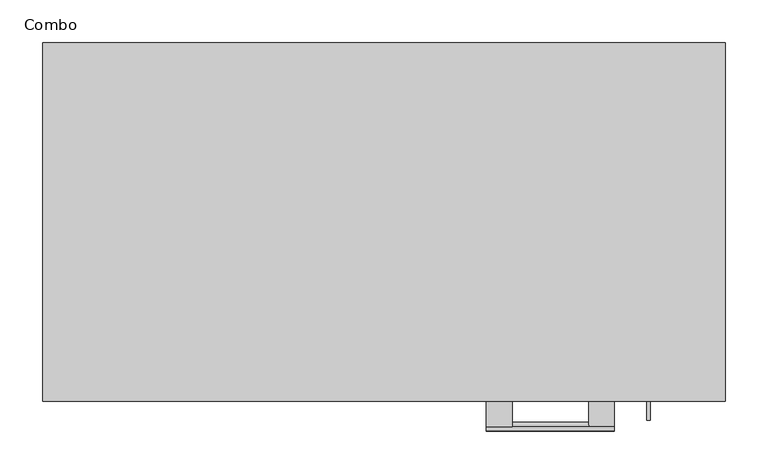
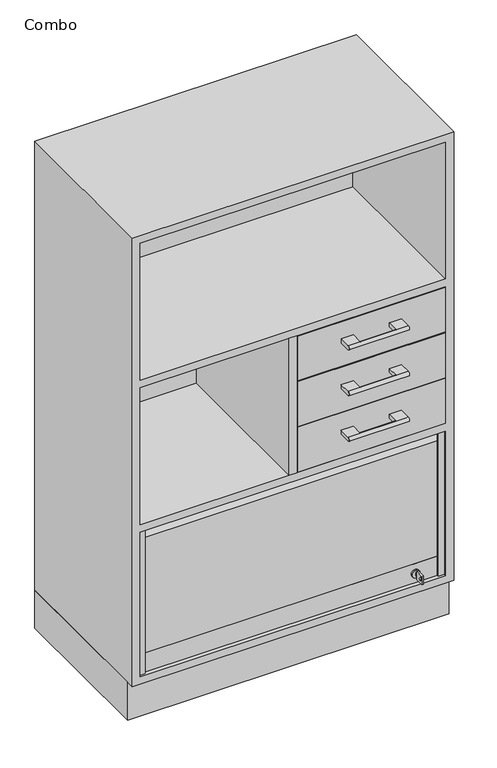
"""IFC4 building model written with IfcOpenShell, lengths in millimetres: furniture geometry, Combo : 583RKDA."""

import ifcopenshell
import ifcopenshell.guid

model = None  # the IFC model being written
_history = None  # IfcOwnerHistory: only IFC2X3 demands one
_inside = {}  # id of a spatial element -> (the spatial element, [elements in it])
_under = {}  # id of a project, library or spatial element -> (it, [spatial elements below it])
_declared = {}  # id of a project -> (the project, [libraries it declares])
_typed = {}  # id of a type object -> (the type object, [elements of that type])
_made_of = {}  # id of a material, layer set ... -> (it, [elements and type objects made of it])


def new_model(schema):
    """Start an empty IFC model of exactly this schema.

    Asked for "IFC4X3", IfcOpenShell would pick the latest addendum, in which some entities
    have other attributes; the version numbers below select the first issue.
    IFC2X3 requires an IfcOwnerHistory on every rooted entity: one is made here for all.
    """
    global model, _history
    if schema == "IFC4X3":
        model = ifcopenshell.file(schema_version=(4, 3, 0, 0))
    else:
        model = ifcopenshell.file(schema=schema)
    _inside.clear()
    _under.clear()
    _declared.clear()
    _typed.clear()
    _made_of.clear()
    _history = None
    if model.schema == "IFC2X3":
        org = make("IfcOrganization", Name="unknown")
        user = make(
            "IfcPersonAndOrganization",
            ThePerson=make("IfcPerson", FamilyName="unknown"),
            TheOrganization=org,
        )
        app = make(
            "IfcApplication",
            ApplicationDeveloper=org,
            Version="unknown",
            ApplicationFullName="unknown",
            ApplicationIdentifier="unknown",
        )
        _history = make(
            "IfcOwnerHistory",
            OwningUser=user,
            OwningApplication=app,
            ChangeAction="ADDED",
            CreationDate=0,
        )
    return model


def make(cls, **values):
    """One entity of the class cls with the attributes given. An attribute that is None is left unset."""
    return model.create_entity(
        cls, **{name: value for name, value in values.items() if value is not None}
    )


def rooted(cls, **values):
    """An entity with a GlobalId (a new one), such as an element, a storey or a relation."""
    return make(cls, GlobalId=ifcopenshell.guid.new(), OwnerHistory=_history, **values)


def si_unit(unit_type, name, prefix=None):
    """IfcSIUnit, for example si_unit("LENGTHUNIT", "METRE", prefix="MILLI")."""
    return make("IfcSIUnit", UnitType=unit_type, Prefix=prefix, Name=name)


def assignment(units):
    """IfcUnitAssignment: the units of a project."""
    return None if units is None else make("IfcUnitAssignment", Units=units)


def point(xyz):
    """IfcCartesianPoint."""
    return None if xyz is None else make("IfcCartesianPoint", Coordinates=xyz)


def direction(xyz):
    """IfcDirection."""
    return None if xyz is None else make("IfcDirection", DirectionRatios=xyz)


def frame(location, z_axis=None, x_axis=None):
    """IfcAxis2Placement3D, a coordinate frame: its origin and axes. An axis left out is left unset."""
    return make(
        "IfcAxis2Placement3D",
        Location=point(location),
        Axis=direction(z_axis),
        RefDirection=direction(x_axis),
    )


def frame_2d(location, x_axis=None):
    """IfcAxis2Placement2D, a coordinate frame in the plane: its origin and x axis."""
    return make(
        "IfcAxis2Placement2D", Location=point(location), RefDirection=direction(x_axis)
    )


def origin():
    """The frame at (0, 0, 0) with its axes left unset."""
    return frame((0.0, 0.0, 0.0))


def origin_with_axes():
    """The frame at (0, 0, 0) with the z axis (0, 0, 1) and the x axis (1, 0, 0) written out."""
    return frame((0.0, 0.0, 0.0), z_axis=(0.0, 0.0, 1.0), x_axis=(1.0, 0.0, 0.0))


def place(relative_to, where):
    """IfcLocalPlacement: puts the frame where relative to a parent placement (None: the world)."""
    return make(
        "IfcLocalPlacement", PlacementRelTo=relative_to, RelativePlacement=where
    )


def context(
    kind, dimensions, precision=None, world=None, true_north=None, identifier=None
):
    """IfcGeometricRepresentationContext, for example the 3D "Model" context."""
    return make(
        "IfcGeometricRepresentationContext",
        ContextIdentifier=identifier,
        ContextType=kind,
        CoordinateSpaceDimension=dimensions,
        Precision=precision,
        WorldCoordinateSystem=world,
        TrueNorth=true_north,
    )


def project(units=None, contexts=None):
    """IfcProject with its units and contexts."""
    return rooted(
        "IfcProject",
        Name="project",
        RepresentationContexts=contexts,
        UnitsInContext=assignment(units),
    )


def spatial(cls, under=None, at=None, **own):
    """A site, building, storey or space (cls), placed at a placement, below another one or the project."""
    s = rooted(cls, ObjectPlacement=at, **own)
    if under is not None:
        _under.setdefault(under.id(), (under, []))[1].append(s)
    return s


def polyline(points):
    """IfcPolyline through the points."""
    return make("IfcPolyline", Points=[point(p) for p in points])


def circle_curve(where, radius):
    """IfcCircle in the frame where."""
    return make("IfcCircle", Position=where, Radius=radius)


def trimmed(basis, trim1, trim2, sense, master):
    """IfcTrimmedCurve: the piece of a basis curve between two trims."""
    return make(
        "IfcTrimmedCurve",
        BasisCurve=basis,
        Trim1=trim1,
        Trim2=trim2,
        SenseAgreement=sense,
        MasterRepresentation=master,
    )


def segment(curve, same_sense, transition):
    """IfcCompositeCurveSegment."""
    return make(
        "IfcCompositeCurveSegment",
        Transition=transition,
        SameSense=same_sense,
        ParentCurve=curve,
    )


def composite_curve(segments, self_intersect=None):
    """IfcCompositeCurve: segments joined end to end."""
    return make("IfcCompositeCurve", Segments=segments, SelfIntersect=self_intersect)


def outline(outer, holes=None, kind="AREA"):
    """IfcArbitraryClosedProfileDef: a profile drawn as a closed curve; with holes, ...WithVoids."""
    if holes is None:
        return make("IfcArbitraryClosedProfileDef", ProfileType=kind, OuterCurve=outer)
    return make(
        "IfcArbitraryProfileDefWithVoids",
        ProfileType=kind,
        OuterCurve=outer,
        InnerCurves=holes,
    )


def extrude(swept, where, along, depth):
    """IfcExtrudedAreaSolid: the profile swept, set in the frame where, extruded along a direction by depth."""
    return make(
        "IfcExtrudedAreaSolid",
        SweptArea=swept,
        Position=where,
        ExtrudedDirection=direction(along),
        Depth=depth,
    )


def faces_of(points, faces, orient=None, outer=None):
    """IfcFace entities. A face is a list of loops; a loop is a list of indices into points, from 0.

    orient and outer hold one flag for each loop. By default every Orientation is true, the
    first loop of a face is its IfcFaceOuterBound and the others are IfcFaceBound.
    """
    made = []
    for i, loops in enumerate(faces):
        bounds = []
        for j, loop in enumerate(loops):
            is_outer = j == 0 if outer is None else outer[i][j]
            bounds.append(
                make(
                    "IfcFaceOuterBound" if is_outer else "IfcFaceBound",
                    Bound=make("IfcPolyLoop", Polygon=[points[k] for k in loop]),
                    Orientation=True if orient is None else orient[i][j],
                )
            )
        made.append(make("IfcFace", Bounds=bounds))
    return made


def faceted_brep(points, faces, orient=None, outer=None, voids=None):
    """IfcFacetedBrep: a solid bounded by flat faces; with voids (closed shells), ...WithVoids."""
    shared = [point(p) for p in points]
    hull = make("IfcClosedShell", CfsFaces=faces_of(shared, faces, orient, outer))
    if voids is None:
        return make("IfcFacetedBrep", Outer=hull)
    return make(
        "IfcFacetedBrepWithVoids",
        Outer=hull,
        Voids=[
            make(cls, CfsFaces=faces_of(shared, fs, o, b)) for cls, fs, o, b in voids
        ],
    )


def shape(context_of_items, identifier, shape_type, items):
    """IfcShapeRepresentation: the items that make up one representation, for example the "Body"."""
    return make(
        "IfcShapeRepresentation",
        ContextOfItems=context_of_items,
        RepresentationIdentifier=identifier,
        RepresentationType=shape_type,
        Items=items,
    )


def source(mapping_origin, context_of_items, identifier, shape_type, items):
    """IfcRepresentationMap: a shape defined once, which mapped items show again and again."""
    return make(
        "IfcRepresentationMap",
        MappingOrigin=mapping_origin,
        MappedRepresentation=shape(context_of_items, identifier, shape_type, items),
    )


def transform(
    local_origin,
    x_axis=None,
    y_axis=None,
    z_axis=None,
    scale=None,
    scale2=None,
    scale3=None,
    uniform=True,
):
    """IfcCartesianTransformationOperator3D, or its non-uniform kind. x_axis, y_axis, z_axis: its Axis1, 2, 3."""
    if uniform:
        return make(
            "IfcCartesianTransformationOperator3D",
            Axis1=direction(x_axis),
            Axis2=direction(y_axis),
            LocalOrigin=point(local_origin),
            Scale=scale,
            Axis3=direction(z_axis),
        )
    return make(
        "IfcCartesianTransformationOperator3DnonUniform",
        Axis1=direction(x_axis),
        Axis2=direction(y_axis),
        LocalOrigin=point(local_origin),
        Scale=scale,
        Axis3=direction(z_axis),
        Scale2=scale2,
        Scale3=scale3,
    )


def mapped(mapping_source, mapping_target):
    """IfcMappedItem: shows the shape of a source again, moved by a transform."""
    return make(
        "IfcMappedItem", MappingSource=mapping_source, MappingTarget=mapping_target
    )


def made_of(thing, what):
    """Note that an element or type object is made of a material, layer set ...; save() writes the relation."""
    if what is not None:
        _made_of.setdefault(what.id(), (what, []))[1].append(thing)
    return thing


def element(
    cls,
    number,
    at=None,
    inside=None,
    cuts=None,
    type_object=None,
    material=None,
    context=None,
    identifier="Body",
    shape_type=None,
    held_by="IfcProductDefinitionShape",
    body=None,
    shapes=None,
    **own,
):
    """One element of the class cls, such as IfcWall. Its Tag is "e" and its number.

    at: its placement. inside: the storey or other place that contains it. cuts: it is an
    opening in that element (IfcRelVoidsElement). A single representation is given by context,
    identifier, shape_type and body (its items); several are given by shapes. held_by: the class
    of the entity that holds the representations. save() writes the other relations.
    """
    e = rooted(cls, Tag="e%d" % number, ObjectPlacement=at, **own)
    if body is not None:
        shapes = [shape(context, identifier, shape_type, body)]
    if shapes is not None:
        e.Representation = make(held_by, Representations=shapes)
    if inside is not None:
        _inside.setdefault(inside.id(), (inside, []))[1].append(e)
    if cuts is not None:
        rooted(
            "IfcRelVoidsElement", RelatingBuildingElement=cuts, RelatedOpeningElement=e
        )
    if type_object is not None:
        _typed.setdefault(type_object.id(), (type_object, []))[1].append(e)
    return made_of(e, material)


def aggregate(whole, parts):
    """IfcRelAggregates: a whole, such as a stair, and the parts it consists of."""
    return rooted("IfcRelAggregates", RelatingObject=whole, RelatedObjects=parts)


def save(model, path):
    """Write the relations noted so far, then the file.

    IfcRelAggregates (storeys below a building ...), IfcRelContainedInSpatialStructure (elements
    in a storey), IfcRelDefinesByType, IfcRelAssociatesMaterial and IfcRelDeclares: one each for
    every whole, place, type object, material and project.
    """
    for whole, parts in _under.values():
        aggregate(whole, parts)
    for where, things in _inside.values():
        rooted(
            "IfcRelContainedInSpatialStructure",
            RelatedElements=things,
            RelatingStructure=where,
        )
    for kind, things in _typed.values():
        rooted("IfcRelDefinesByType", RelatedObjects=things, RelatingType=kind)
    for what, things in _made_of.values():
        rooted("IfcRelAssociatesMaterial", RelatedObjects=things, RelatingMaterial=what)
    for by, libraries in _declared.values():
        rooted("IfcRelDeclares", RelatingContext=by, RelatedDefinitions=libraries)
    model.write(path)


def plane_surface(at):
    """IfcPlane: the flat surface through the origin of the frame at, square to its z axis."""
    return make("IfcPlane", Position=at)


def cylinder_surface(at, radius):
    """IfcCylindricalSurface: all points at the distance radius from the z axis of the frame at."""
    return make("IfcCylindricalSurface", Position=at, Radius=radius)


def advanced_brep(points, edges, surfaces, faces):
    """IfcAdvancedBrep: a solid bounded by faces that lie on surfaces and meet in shared edges.

    An edge is (start, end): straight between two places in points (the first is 0);
    or (start, end, curve); or (start, end, curve, False) where it runs against its curve.
    A face is (place in surfaces, loops), or (place, loops, False) where it looks against
    its surface's normal. A loop lists edges by number (the first is 1), with a minus sign
    where the edge is run from its end to its start. The first loop is the outer one.
    """
    corners = [point(p) for p in points]
    vertices = [make("IfcVertexPoint", VertexGeometry=c) for c in corners]
    made = []
    for start, end, *more in edges:
        made.append(
            make(
                "IfcEdgeCurve",
                EdgeStart=vertices[start],
                EdgeEnd=vertices[end],
                EdgeGeometry=more[0] if more else make("IfcPolyline", Points=[corners[start], corners[end]]),
                SameSense=more[1] if len(more) > 1 else True,
            )
        )
    hull = []
    for where, loops, *sense in faces:
        bounds = []
        for j, loop in enumerate(loops):
            ring = [make("IfcOrientedEdge", EdgeElement=made[abs(k) - 1], Orientation=k > 0) for k in loop]
            bounds.append(
                make(
                    "IfcFaceOuterBound" if j == 0 else "IfcFaceBound",
                    Bound=make("IfcEdgeLoop", EdgeList=ring),
                    Orientation=True,
                )
            )
        hull.append(make("IfcAdvancedFace", Bounds=bounds, FaceSurface=surfaces[where], SameSense=sense[0] if sense else True))
    return make("IfcAdvancedBrep", Outer=make("IfcClosedShell", CfsFaces=hull))


def combo_d0bdfe3d(model_context):
    return source(origin(), model_context, "Body", "SolidModel", [
        extrude(outline(polyline([(-400.0, -400.0), (-400.0, 0.0), (400.0, 0.0), (400.0, -400.0), (-400.0, -400.0)])), origin_with_axes(), (0.0, 0.0, 1.0), 100.0),
        advanced_brep(
        [(120.0, -450.0, 593.3054041), (120.0, -420.0, 593.3054041), (120.0, -420.0, 583.3054041), (120.0, -450.0, 583.3054041), (150.0, -450.0, 583.3054041), (150.0, -420.0, 583.3054041), (150.0, -420.0, 593.3054041), (150.0, -450.0, 593.3054041), (270.0, -450.0, 593.3054041), (270.0, -450.0, 583.3054041), (270.0, -420.0, 583.3054041), (270.0, -420.0, 593.3054041), (240.0, -450.0, 593.3054041), (240.0, -450.0, 583.3054041), (240.0, -420.0, 593.3054041), (240.0, -420.0, 583.3054041)],
        [
            (0, 1),
            (1, 2),
            (2, 3),
            (3, 0, circle_curve(frame((120.0, -450.0, 588.3054041), z_axis=(-1.0, 0.0, 0.0), x_axis=(0.0, 0.0, -1.0)), 5.0)),
            (4, 5),
            (5, 6),
            (6, 7),
            (7, 4, circle_curve(frame((150.0, -450.0, 588.3054041), z_axis=(-1.0, 0.0, 0.0), x_axis=(0.0, 0.0, -1.0)), 5.0)),
            (2, 5),
            (4, 3),
            (1, 6),
            (0, 7),
            (8, 9, circle_curve(frame((270.0, -450.0, 588.3054041), z_axis=(1.0, 0.0, 0.0), x_axis=(0.0, 0.0, -1.0)), 5.0)),
            (9, 10),
            (10, 11),
            (11, 8),
            (8, 12),
            (12, 7),
            (4, 13),
            (13, 9),
            (12, 13, circle_curve(frame((240.0, -450.0, 588.3054041), z_axis=(-1.0, 0.0, 0.0), x_axis=(0.0, 0.0, -1.0)), 5.0)),
            (12, 14),
            (14, 15),
            (15, 13),
            (15, 10),
            (14, 11),
        ],
        [
            plane_surface(frame((120.0, -450.0, 594.3054041), z_axis=(-1.0, 0.0, 0.0), x_axis=(0.0, 0.0, 1.0))),
            plane_surface(frame((150.0, -450.0, 594.3054041), z_axis=(1.0, 0.0, 0.0), x_axis=(0.0, 0.0, -1.0))),
            plane_surface(frame((120.0, -420.0, 583.3054041), z_axis=(0.0, 0.0, -1.0), x_axis=(1.0, 0.0, 0.0))),
            plane_surface(frame((120.0, -420.0, 593.3054041), z_axis=(0.0, 1.0, 0.0), x_axis=(1.0, 0.0, 0.0))),
            plane_surface(frame((120.0, -450.0, 593.3054041), z_axis=(0.0, 0.0, 1.0), x_axis=(1.0, 0.0, 0.0))),
            plane_surface(frame((270.0, -450.0, 583.3054041), z_axis=(1.0, 0.0, 0.0), x_axis=(0.0, 1.0, 0.0))),
            cylinder_surface(frame((120.0, -450.0, 588.3054041), z_axis=(1.0, 0.0, 0.0), x_axis=(0.0, 0.0, -1.0)), 5.0),
            plane_surface(frame((240.0, -538.7415577, 583.3054041), z_axis=(-1.0, 0.0, 0.0), x_axis=(0.0, -1.0, 0.0))),
            plane_surface(frame((270.0, -450.0, 583.3054041), z_axis=(0.0, 0.0, -1.0), x_axis=(-1.0, 0.0, 0.0))),
            plane_surface(frame((270.0, -420.0, 583.3054041), z_axis=(0.0, 1.0, 0.0), x_axis=(-1.0, 0.0, 0.0))),
            plane_surface(frame((270.0, -420.0, 593.3054041), z_axis=(0.0, 0.0, 1.0), x_axis=(-1.0, 0.0, 0.0))),
        ],
        [
            (0, [[1, 2, 3, 4]]),
            (1, [[5, 6, 7, 8]]),
            (2, [[-3, 9, -5, 10]]),
            (3, [[-2, 11, -6, -9]]),
            (4, [[-1, 12, -7, -11]]),
            (5, [[13, 14, 15, 16]]),
            (6, [[-13, 17, 18, -12, -4, -10, 19, 20]]),
            (6, [[-8, -18, 21, -19]]),
            (7, [[22, 23, 24, -21]]),
            (8, [[-14, -20, -24, 25]]),
            (9, [[-15, -25, -23, 26]]),
            (10, [[-16, -26, -22, -17]]),
        ],
    ),
        advanced_brep(
        [(120.0, -450.0, 833.3054041), (120.0, -420.0, 833.3054041), (120.0, -420.0, 823.3054041), (120.0, -450.0, 823.3054041), (150.0, -450.0, 823.3054041), (150.0, -420.0, 823.3054041), (150.0, -420.0, 833.3054041), (150.0, -450.0, 833.3054041), (270.0, -450.0, 833.3054041), (270.0, -450.0, 823.3054041), (270.0, -420.0, 823.3054041), (270.0, -420.0, 833.3054041), (240.0, -450.0, 833.3054041), (240.0, -450.0, 823.3054041), (240.0, -420.0, 833.3054041), (240.0, -420.0, 823.3054041)],
        [
            (0, 1),
            (1, 2),
            (2, 3),
            (3, 0, circle_curve(frame((120.0, -450.0, 828.3054041), z_axis=(-1.0, 0.0, 0.0), x_axis=(0.0, 0.0, -1.0)), 5.0)),
            (4, 5),
            (5, 6),
            (6, 7),
            (7, 4, circle_curve(frame((150.0, -450.0, 828.3054041), z_axis=(-1.0, 0.0, 0.0), x_axis=(0.0, 0.0, -1.0)), 5.0)),
            (2, 5),
            (4, 3),
            (1, 6),
            (0, 7),
            (8, 9, circle_curve(frame((270.0, -450.0, 828.3054041), z_axis=(1.0, 0.0, 0.0), x_axis=(0.0, 0.0, -1.0)), 5.0)),
            (9, 10),
            (10, 11),
            (11, 8),
            (8, 12),
            (12, 7),
            (4, 13),
            (13, 9),
            (12, 13, circle_curve(frame((240.0, -450.0, 828.3054041), z_axis=(-1.0, 0.0, 0.0), x_axis=(0.0, 0.0, -1.0)), 5.0)),
            (12, 14),
            (14, 15),
            (15, 13),
            (15, 10),
            (14, 11),
        ],
        [
            plane_surface(frame((120.0, -450.0, 834.3054041), z_axis=(-1.0, 0.0, 0.0), x_axis=(0.0, 0.0, 1.0))),
            plane_surface(frame((150.0, -450.0, 834.3054041), z_axis=(1.0, 0.0, 0.0), x_axis=(0.0, 0.0, -1.0))),
            plane_surface(frame((120.0, -420.0, 823.3054041), z_axis=(0.0, 0.0, -1.0), x_axis=(1.0, 0.0, 0.0))),
            plane_surface(frame((120.0, -420.0, 833.3054041), z_axis=(0.0, 1.0, 0.0), x_axis=(1.0, 0.0, 0.0))),
            plane_surface(frame((120.0, -450.0, 833.3054041), z_axis=(0.0, 0.0, 1.0), x_axis=(1.0, 0.0, 0.0))),
            plane_surface(frame((270.0, -450.0, 823.3054041), z_axis=(1.0, 0.0, 0.0), x_axis=(0.0, 1.0, 0.0))),
            cylinder_surface(frame((120.0, -450.0, 828.3054041), z_axis=(1.0, 0.0, 0.0), x_axis=(0.0, 0.0, -1.0)), 5.0),
            plane_surface(frame((240.0, -538.7415577, 823.3054041), z_axis=(-1.0, 0.0, 0.0), x_axis=(0.0, -1.0, 0.0))),
            plane_surface(frame((270.0, -450.0, 823.3054041), z_axis=(0.0, 0.0, -1.0), x_axis=(-1.0, 0.0, 0.0))),
            plane_surface(frame((270.0, -420.0, 823.3054041), z_axis=(0.0, 1.0, 0.0), x_axis=(-1.0, 0.0, 0.0))),
            plane_surface(frame((270.0, -420.0, 833.3054041), z_axis=(0.0, 0.0, 1.0), x_axis=(-1.0, 0.0, 0.0))),
        ],
        [
            (0, [[1, 2, 3, 4]]),
            (1, [[5, 6, 7, 8]]),
            (2, [[-3, 9, -5, 10]]),
            (3, [[-2, 11, -6, -9]]),
            (4, [[-1, 12, -7, -11]]),
            (5, [[13, 14, 15, 16]]),
            (6, [[-13, 17, 18, -12, -4, -10, 19, 20]]),
            (6, [[-8, -18, 21, -19]]),
            (7, [[22, 23, 24, -21]]),
            (8, [[-14, -20, -24, 25]]),
            (9, [[-15, -25, -23, 26]]),
            (10, [[-16, -26, -22, -17]]),
        ],
    ),
        advanced_brep(
        [(120.0, -450.0, 713.3054041), (120.0, -420.0, 713.3054041), (120.0, -420.0, 703.3054041), (120.0, -450.0, 703.3054041), (150.0, -450.0, 703.3054041), (150.0, -420.0, 703.3054041), (150.0, -420.0, 713.3054041), (150.0, -450.0, 713.3054041), (270.0, -450.0, 713.3054041), (270.0, -450.0, 703.3054041), (270.0, -420.0, 703.3054041), (270.0, -420.0, 713.3054041), (240.0, -450.0, 713.3054041), (240.0, -450.0, 703.3054041), (240.0, -420.0, 713.3054041), (240.0, -420.0, 703.3054041)],
        [
            (0, 1),
            (1, 2),
            (2, 3),
            (3, 0, circle_curve(frame((120.0, -450.0, 708.3054041), z_axis=(-1.0, 0.0, 0.0), x_axis=(0.0, 0.0, -1.0)), 5.0)),
            (4, 5),
            (5, 6),
            (6, 7),
            (7, 4, circle_curve(frame((150.0, -450.0, 708.3054041), z_axis=(-1.0, 0.0, 0.0), x_axis=(0.0, 0.0, -1.0)), 5.0)),
            (2, 5),
            (4, 3),
            (1, 6),
            (0, 7),
            (8, 9, circle_curve(frame((270.0, -450.0, 708.3054041), z_axis=(1.0, 0.0, 0.0), x_axis=(0.0, 0.0, -1.0)), 5.0)),
            (9, 10),
            (10, 11),
            (11, 8),
            (8, 12),
            (12, 7),
            (4, 13),
            (13, 9),
            (12, 13, circle_curve(frame((240.0, -450.0, 708.3054041), z_axis=(-1.0, 0.0, 0.0), x_axis=(0.0, 0.0, -1.0)), 5.0)),
            (12, 14),
            (14, 15),
            (15, 13),
            (15, 10),
            (14, 11),
        ],
        [
            plane_surface(frame((120.0, -450.0, 714.3054041), z_axis=(-1.0, 0.0, 0.0), x_axis=(0.0, 0.0, 1.0))),
            plane_surface(frame((150.0, -450.0, 714.3054041), z_axis=(1.0, 0.0, 0.0), x_axis=(0.0, 0.0, -1.0))),
            plane_surface(frame((120.0, -420.0, 703.3054041), z_axis=(0.0, 0.0, -1.0), x_axis=(1.0, 0.0, 0.0))),
            plane_surface(frame((120.0, -420.0, 713.3054041), z_axis=(0.0, 1.0, 0.0), x_axis=(1.0, 0.0, 0.0))),
            plane_surface(frame((120.0, -450.0, 713.3054041), z_axis=(0.0, 0.0, 1.0), x_axis=(1.0, 0.0, 0.0))),
            plane_surface(frame((270.0, -450.0, 703.3054041), z_axis=(1.0, 0.0, 0.0), x_axis=(0.0, 1.0, 0.0))),
            cylinder_surface(frame((120.0, -450.0, 708.3054041), z_axis=(1.0, 0.0, 0.0), x_axis=(0.0, 0.0, -1.0)), 5.0),
            plane_surface(frame((240.0, -538.7415577, 703.3054041), z_axis=(-1.0, 0.0, 0.0), x_axis=(0.0, -1.0, 0.0))),
            plane_surface(frame((270.0, -450.0, 703.3054041), z_axis=(0.0, 0.0, -1.0), x_axis=(-1.0, 0.0, 0.0))),
            plane_surface(frame((270.0, -420.0, 703.3054041), z_axis=(0.0, 1.0, 0.0), x_axis=(-1.0, 0.0, 0.0))),
            plane_surface(frame((270.0, -420.0, 713.3054041), z_axis=(0.0, 0.0, 1.0), x_axis=(-1.0, 0.0, 0.0))),
        ],
        [
            (0, [[1, 2, 3, 4]]),
            (1, [[5, 6, 7, 8]]),
            (2, [[-3, 9, -5, 10]]),
            (3, [[-2, 11, -6, -9]]),
            (4, [[-1, 12, -7, -11]]),
            (5, [[13, 14, 15, 16]]),
            (6, [[-13, 17, 18, -12, -4, -10, 19, 20]]),
            (6, [[-8, -18, 21, -19]]),
            (7, [[22, 23, 24, -21]]),
            (8, [[-14, -20, -24, 25]]),
            (9, [[-15, -25, -23, 26]]),
            (10, [[-16, -26, -22, -17]]),
        ],
    ),
        extrude(outline(composite_curve([segment(trimmed(circle_curve(frame_2d((145.0, 310.0)), 10.0), [point((145.0, 300.0))], [point((145.0, 320.0))], False, "CARTESIAN"), True, "CONTINUOUS"), segment(trimmed(circle_curve(frame_2d((145.0, 310.0)), 10.0), [point((145.0, 320.0))], [point((145.0, 300.0))], False, "CARTESIAN"), True, "CONTINUOUS")], self_intersect=False)), frame((0.0, -414.0, 0.0), z_axis=(0.0, 1.0, 0.0), x_axis=(0.0, 0.0, 1.0)), (0.0, 0.0, 1.0), 4.0),
        extrude(outline(polyline([(-442.0, 134.014113), (-442.0, 156.0), (-420.0, 156.0), (-420.0, 134.014113), (-442.0, 134.014113)]), holes=[composite_curve([segment(trimmed(circle_curve(frame_2d((-435.75, 145.0070565)), 3.2230706), [point((-435.75, 148.2301271))], [point((-435.75, 141.7839859))], True, "CARTESIAN"), True, "CONTINUOUS"), segment(trimmed(circle_curve(frame_2d((-435.75, 145.0070565)), 3.2230706), [point((-435.75, 141.7839859))], [point((-435.75, 148.2301271))], True, "CARTESIAN"), True, "CONTINUOUS")], self_intersect=False)]), frame((308.0, 0.0, 0.0), z_axis=(1.0, 0.0, 0.0), x_axis=(0.0, 1.0, 0.0)), (0.0, 0.0, 1.0), 4.0416064),
        extrude(outline(polyline([(311.0416064, -420.0), (309.0, -420.0), (309.0, -414.0), (311.0416064, -414.0), (311.0416064, -420.0)])), frame((0.0, 0.0, 141.014113), z_axis=(0.0, 0.0, 1.0), x_axis=(1.0, 0.0, 0.0)), (0.0, 0.0, 1.0), 7.985887),
        extrude(outline(polyline([(379.0, -420.0), (11.0, -420.0), (11.0, -400.0), (379.0, -400.0), (379.0, -420.0)])), frame((0.0, 0.0, 761.0), z_axis=(0.0, 0.0, 1.0), x_axis=(1.0, 0.0, 0.0)), (0.0, 0.0, 1.0), 118.0),
        extrude(outline(polyline([(379.0, -420.0), (11.0, -420.0), (11.0, -400.0), (379.0, -400.0), (379.0, -420.0)])), frame((0.0, 0.0, 521.0), z_axis=(0.0, 0.0, 1.0), x_axis=(1.0, 0.0, 0.0)), (0.0, 0.0, 1.0), 118.0),
        extrude(outline(polyline([(379.0, -420.0), (11.0, -420.0), (11.0, -400.0), (379.0, -400.0), (379.0, -420.0)])), frame((0.0, 0.0, 641.0), z_axis=(0.0, 0.0, 1.0), x_axis=(1.0, 0.0, 0.0)), (0.0, 0.0, 1.0), 118.0),
        extrude(outline(polyline([(10.0, -420.0), (-10.0, -420.0), (-10.0, -20.0), (10.0, -20.0), (10.0, -420.0)])), frame((0.0, 0.0, 520.0), z_axis=(0.0, 0.0, 1.0), x_axis=(1.0, 0.0, 0.0)), (0.0, 0.0, 1.0), 360.0),
        extrude(outline(polyline([(380.0, -400.0), (380.0, -410.0), (-380.0, -410.0), (-380.0, -400.0), (380.0, -400.0)])), frame((0.0, 0.0, 120.0), z_axis=(0.0, 0.0, 1.0), x_axis=(1.0, 0.0, 0.0)), (0.0, 0.0, 1.0), 50.0),
        extrude(outline(polyline([(-365.0, -415.0), (-380.0, -415.0), (-380.0, -410.0), (-365.0, -410.0), (-365.0, -415.0)])), frame((0.0, 0.0, 120.0), z_axis=(0.0, 0.0, 1.0), x_axis=(1.0, 0.0, 0.0)), (0.0, 0.0, 1.0), 380.0),
        extrude(outline(polyline([(380.0, -415.0), (365.0, -415.0), (365.0, -410.0), (380.0, -410.0), (380.0, -415.0)])), frame((0.0, 0.0, 120.0), z_axis=(0.0, 0.0, 1.0), x_axis=(1.0, 0.0, 0.0)), (0.0, 0.0, 1.0), 380.0),
        extrude(outline(composite_curve([segment(trimmed(circle_curve(frame_2d((-390.0, 474.0)), 20.0), [point((-410.0, 474.0))], [point((-390.0, 494.0))], False, "CARTESIAN"), True, "CONTINUOUS"), segment(polyline([(-390.0, 494.0), (-360.0, 494.0), (-360.0, 484.0), (-390.0, 484.0)]), True, "CONTINUOUS"), segment(trimmed(circle_curve(frame_2d((-390.0, 474.0)), 10.0), [point((-390.0, 484.0))], [point((-400.0, 474.0))], True, "CARTESIAN"), True, "CONTINUOUS"), segment(polyline([(-400.0, 474.0), (-400.0, 170.0), (-410.0, 170.0), (-410.0, 474.0)]), True, "CONTINUOUS")], self_intersect=False)), frame((-380.0, 0.0, 0.0), z_axis=(1.0, 0.0, 0.0), x_axis=(0.0, 1.0, 0.0)), (0.0, 0.0, 1.0), 760.0),
        faceted_brep([(400.0, 0.0, 1280.0), (-400.0, 0.0, 1280.0), (-400.0, -420.0, 1280.0), (400.0, -420.0, 1280.0), (-400.0, 0.0, 100.0), (400.0, 0.0, 100.0), (400.0, -420.0, 100.0), (-400.0, -420.0, 100.0), (-380.0, -420.0, 880.0), (380.0, -420.0, 880.0), (380.0, -420.0, 520.0), (-380.0, -420.0, 520.0), (-380.0, -420.0, 900.0), (-380.0, -420.0, 1260.0), (380.0, -420.0, 1260.0), (380.0, -420.0, 900.0), (380.0, -420.0, 500.0), (380.0, -420.0, 120.0), (-380.0, -420.0, 120.0), (-380.0, -420.0, 500.0), (-380.0, -20.0, 900.0), (-380.0, -20.0, 1260.0), (-380.0, -20.0, 880.0), (380.0, -20.0, 880.0), (380.0, -20.0, 120.0), (380.0, -20.0, 500.0), (-380.0, -20.0, 500.0), (-380.0, -20.0, 120.0), (380.0, -20.0, 520.0), (-380.0, -20.0, 520.0), (380.0, -20.0, 900.0), (380.0, -20.0, 1260.0)], [[[0, 1, 2, 3]], [[4, 5, 6, 7]], [[1, 0, 5, 4]], [[2, 1, 4, 7]], [[3, 2, 7, 6], [8, 9, 10, 11], [12, 13, 14, 15], [16, 17, 18, 19]], [[0, 3, 6, 5]], [[20, 21, 13, 12]], [[22, 23, 9, 8]], [[24, 25, 26, 27]], [[25, 24, 17, 16]], [[26, 25, 16, 19]], [[27, 26, 19, 18]], [[24, 27, 18, 17]], [[28, 23, 22, 29]], [[23, 28, 10, 9]], [[29, 22, 8, 11]], [[28, 29, 11, 10]], [[30, 31, 21, 20]], [[31, 30, 15, 14]], [[21, 31, 14, 13]], [[30, 20, 12, 15]]]),
    ])


if __name__ == "__main__":
    model = new_model("IFC4")
    model_context = context("Model", 3, world=origin())
    ifc_project = project(units=[si_unit("LENGTHUNIT", "METRE", prefix="MILLI")], contexts=[model_context])
    site = spatial("IfcSite", under=ifc_project)
    building = spatial("IfcBuilding", under=site)
    placement = place(None, origin())
    combo_shape = combo_d0bdfe3d(model_context)
    element("IfcFurniture", 1, ObjectType="Combo : 583RKDA", at=placement, inside=building, context=model_context, shape_type="MappedRepresentation", body=[
        mapped(combo_shape, transform((0.0, 0.0, 0.0), x_axis=(1.0, 0.0, 0.0), y_axis=(0.0, 1.0, 0.0), z_axis=(0.0, 0.0, 1.0))),
    ])
    save(model, "model.ifc")
